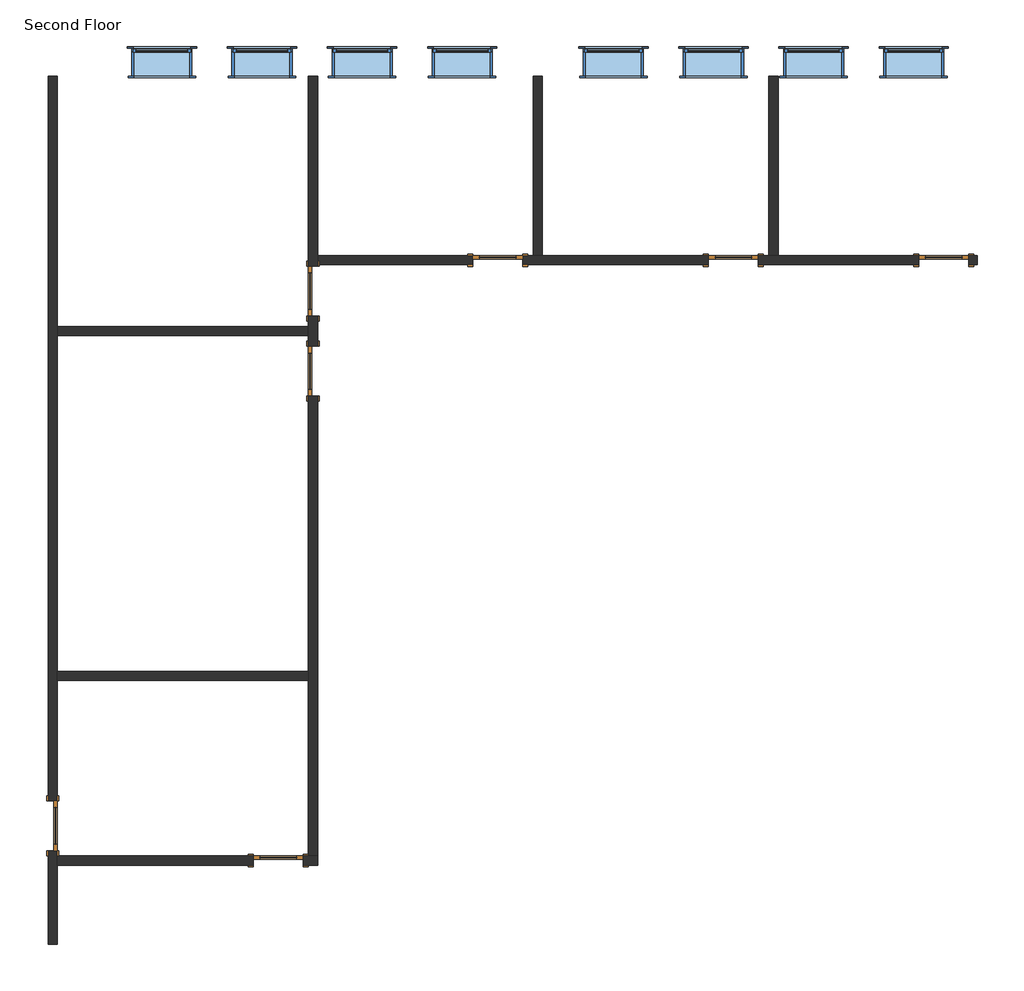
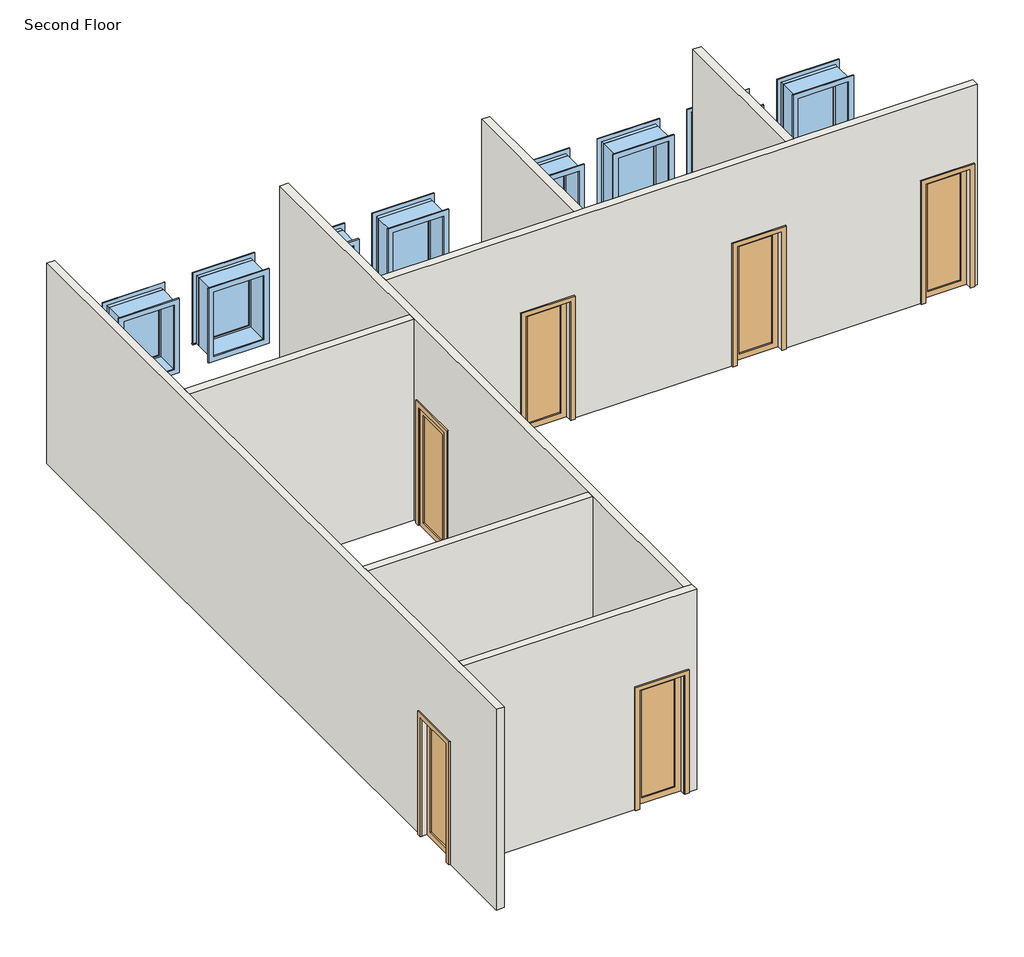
# One storey: 8 walls, 8 windows, 7 doors.
"""IFC4 building model written with IfcOpenShell, lengths in millimetres."""

from ifc_helpers import new_model, si_unit, frame, origin, place, context, project, spatial, polyline, outline, extrude, faceted_brep, transform, mapped, element, save
from components import m_single_glass_1_0762_x_2134mm_f7d00e6c, m_single_glass_1_0762_x_2134mm_cf50c2e0, m_awning_with_trim_0915_x_1220mm_2caa384f, m_awning_with_trim_0915_x_1220mm_1a66d356

model = new_model("IFC4")

# Units and contexts
model_context = context("Model", 3, world=origin())
ifc_project = project(units=[si_unit("LENGTHUNIT", "METRE", prefix="MILLI")], contexts=[model_context])

# Site, building, storey
site = spatial("IfcSite", under=ifc_project)
building = spatial("IfcBuilding", under=site)
storey = spatial("IfcBuildingStorey", under=building, Name="Second Floor", Elevation=7200.0)

# Doors
placement = place(None, origin())
m_single_glass_1_0762_x_2134mm_shape = m_single_glass_1_0762_x_2134mm_f7d00e6c(model_context)
element("IfcDoor", 1, ObjectType="M_Single-Glass 1 : 0762 x 2134mm", at=placement, inside=storey, context=model_context, shape_type="MappedRepresentation", body=[
    mapped(m_single_glass_1_0762_x_2134mm_shape, transform((6504.7849316, 118.507772, 7200.0), x_axis=(0.0, -1.0, 0.0), y_axis=(1.0, 0.0, 0.0), z_axis=(0.0, 0.0, 1.0))),
])
m_single_glass_1_0762_x_2134mm_2_shape = m_single_glass_1_0762_x_2134mm_cf50c2e0(model_context)
element("IfcDoor", 2, ObjectType="M_Single-Glass 1 : 0762 x 2134mm", at=placement, inside=storey, context=model_context, shape_type="MappedRepresentation", body=[
    mapped(m_single_glass_1_0762_x_2134mm_2_shape, transform((2542.7849316, -8025.342228, 7200.0), x_axis=(0.0, -1.0, 0.0), y_axis=(1.0, 0.0, 0.0), z_axis=(0.0, 0.0, 1.0))),
])
element("IfcDoor", 3, ObjectType="M_Single-Glass 1 : 0762 x 2134mm", at=placement, inside=storey, context=model_context, shape_type="MappedRepresentation", body=[
    mapped(m_single_glass_1_0762_x_2134mm_2_shape, transform((5975.5349316, -8554.592228, 7200.0), x_axis=(1.0, 0.0, 0.0), y_axis=(0.0, 1.0, 0.0), z_axis=(0.0, 0.0, 1.0))),
])
element("IfcDoor", 4, ObjectType="M_Single-Glass 1 : 0762 x 2134mm", at=placement, inside=storey, context=model_context, shape_type="MappedRepresentation", body=[
    mapped(m_single_glass_1_0762_x_2134mm_2_shape, transform((6504.7849316, -1101.492228, 7200.0), x_axis=(0.0, 1.0, 0.0), y_axis=(-1.0, 0.0, 0.0), z_axis=(0.0, 0.0, 1.0))),
])
element("IfcDoor", 5, ObjectType="M_Single-Glass 1 : 0762 x 2134mm", at=placement, inside=storey, context=model_context, shape_type="MappedRepresentation", body=[
    mapped(m_single_glass_1_0762_x_2134mm_2_shape, transform((9317.0349316, 589.407772, 7200.0), x_axis=(1.0, 0.0, 0.0), y_axis=(0.0, 1.0, 0.0), z_axis=(0.0, 0.0, 1.0))),
])
element("IfcDoor", 6, ObjectType="M_Single-Glass 1 : 0762 x 2134mm", at=placement, inside=storey, context=model_context, shape_type="MappedRepresentation", body=[
    mapped(m_single_glass_1_0762_x_2134mm_2_shape, transform((12905.7849316, 589.407772, 7200.0), x_axis=(1.0, 0.0, 0.0), y_axis=(0.0, 1.0, 0.0), z_axis=(0.0, 0.0, 1.0))),
])
element("IfcDoor", 7, ObjectType="M_Single-Glass 1 : 0762 x 2134mm", at=placement, inside=storey, context=model_context, shape_type="MappedRepresentation", body=[
    mapped(m_single_glass_1_0762_x_2134mm_2_shape, transform((16106.7849316, 589.407772, 7200.0), x_axis=(1.0, 0.0, 0.0), y_axis=(0.0, 1.0, 0.0), z_axis=(0.0, 0.0, 1.0))),
])

# Walls
element("IfcWall", 8, ObjectType="Interior - 138mm Partition (1-hr)", at=placement, inside=storey, context=model_context, shape_type="Brep", body=[
    faceted_brep([(2473.5349316, -8406.342228, 9334.0), (2473.5349316, -8406.342228, 7200.0), (2473.5349316, -9830.592228, 7200.0), (2473.5349316, -9830.592228, 10800.0), (2473.5349316, 3389.407772, 10800.0), (2473.5349316, 3389.407772, 7200.0), (2473.5349316, -7644.342228, 7200.0), (2473.5349316, -7644.342228, 9334.0), (2612.0349316, -9830.592228, 7200.0), (2612.0349316, -8623.842228, 7200.0), (2612.0349316, -8485.342228, 7200.0), (2612.0349316, -8406.342228, 7200.0), (2612.0349316, -8406.342228, 9334.0), (2612.0349316, -7644.342228, 9334.0), (2612.0349316, -7644.342228, 7200.0), (2612.0349316, -5811.592228, 7200.0), (2612.0349316, -5673.092228, 7200.0), (2612.0349316, -560.742228, 7200.0), (2612.0349316, -422.242228, 7200.0), (2612.0349316, 3389.407772, 7200.0), (2612.0349316, 3389.407772, 10800.0), (2612.0349316, -422.242228, 10800.0), (2612.0349316, -560.742228, 10800.0), (2612.0349316, -5673.092228, 10800.0), (2612.0349316, -5811.592228, 10800.0), (2612.0349316, -8485.342228, 10800.0), (2612.0349316, -8623.842228, 10800.0), (2612.0349316, -9830.592228, 10800.0)], [[[0, 1, 2, 3, 4, 5, 6, 7]], [[8, 9, 10, 11, 12, 13, 14, 15, 16, 17, 18, 19, 20, 21, 22, 23, 24, 25, 26, 27]], [[6, 5, 19, 18, 17, 16, 15, 14]], [[2, 1, 11, 10, 9, 8]], [[4, 3, 27, 26, 25, 24, 23, 22, 21, 20]], [[12, 11, 1, 0]], [[13, 12, 0, 7]], [[14, 13, 7, 6]], [[5, 4, 20, 19]], [[3, 2, 8, 27]]]),
])
element("IfcWall", 9, ObjectType="Interior - 138mm Partition (1-hr)", at=placement, inside=storey, context=model_context, shape_type="Brep", body=[
    faceted_brep([(6356.5349316, -8623.842228, 9334.0), (6356.5349316, -8623.842228, 7200.0), (6574.0349316, -8623.842228, 7200.0), (6574.0349316, -8623.842228, 10800.0), (2612.0349316, -8623.842228, 10800.0), (2612.0349316, -8623.842228, 7200.0), (5594.5349316, -8623.842228, 7200.0), (5594.5349316, -8623.842228, 9334.0), (6574.0349316, -8485.342228, 7200.0), (6435.5349316, -8485.342228, 7200.0), (6356.5349316, -8485.342228, 7200.0), (6356.5349316, -8485.342228, 9334.0), (5594.5349316, -8485.342228, 9334.0), (5594.5349316, -8485.342228, 7200.0), (2612.0349316, -8485.342228, 7200.0), (2612.0349316, -8485.342228, 10800.0), (6435.5349316, -8485.342228, 10800.0), (6574.0349316, -8485.342228, 10800.0)], [[[0, 1, 2, 3, 4, 5, 6, 7]], [[8, 9, 10, 11, 12, 13, 14, 15, 16, 17]], [[6, 5, 14, 13]], [[2, 1, 10, 9, 8]], [[4, 3, 17, 16, 15]], [[5, 4, 15, 14]], [[3, 2, 8, 17]], [[11, 10, 1, 0]], [[12, 11, 0, 7]], [[13, 12, 7, 6]]]),
])
element("IfcWall", 10, ObjectType="Interior - 138mm Partition (1-hr)", at=placement, inside=storey, context=model_context, shape_type="Brep", body=[
    faceted_brep([(6574.0349316, -720.492228, 7200.0), (6574.0349316, -262.492228, 7200.0), (6574.0349316, -262.492228, 9334.0), (6574.0349316, 499.507772, 9334.0), (6574.0349316, 499.507772, 7200.0), (6574.0349316, 520.157772, 7200.0), (6574.0349316, 658.657772, 7200.0), (6574.0349316, 3389.407772, 7200.0), (6574.0349316, 3389.407772, 10800.0), (6574.0349316, 658.657772, 10800.0), (6574.0349316, 520.157772, 10800.0), (6574.0349316, -8485.342228, 10800.0), (6574.0349316, -8485.342228, 7200.0), (6574.0349316, -1482.492228, 7200.0), (6574.0349316, -1482.492228, 9334.0), (6574.0349316, -720.492228, 9334.0), (6435.5349316, -262.492228, 9334.0), (6435.5349316, -262.492228, 7200.0), (6435.5349316, -422.242228, 7200.0), (6435.5349316, -560.742228, 7200.0), (6435.5349316, -720.492228, 7200.0), (6435.5349316, -720.492228, 9334.0), (6435.5349316, -1482.492228, 9334.0), (6435.5349316, -1482.492228, 7200.0), (6435.5349316, -5673.092228, 7200.0), (6435.5349316, -5811.592228, 7200.0), (6435.5349316, -8485.342228, 7200.0), (6435.5349316, -8485.342228, 10800.0), (6435.5349316, -5811.592228, 10800.0), (6435.5349316, -5673.092228, 10800.0), (6435.5349316, -560.742228, 10800.0), (6435.5349316, -422.242228, 10800.0), (6435.5349316, 3389.407772, 10800.0), (6435.5349316, 3389.407772, 7200.0), (6435.5349316, 499.507772, 7200.0), (6435.5349316, 499.507772, 9334.0)], [[[0, 1, 2, 3, 4, 5, 6, 7, 8, 9, 10, 11, 12, 13, 14, 15]], [[16, 17, 18, 19, 20, 21, 22, 23, 24, 25, 26, 27, 28, 29, 30, 31, 32, 33, 34, 35]], [[13, 12, 26, 25, 24, 23]], [[34, 33, 7, 6, 5, 4]], [[20, 19, 18, 17, 1, 0]], [[11, 10, 9, 8, 32, 31, 30, 29, 28, 27]], [[12, 11, 27, 26]], [[21, 20, 0, 15]], [[22, 21, 15, 14]], [[23, 22, 14, 13]], [[2, 1, 17, 16]], [[3, 2, 16, 35]], [[4, 3, 35, 34]], [[8, 7, 33, 32]]]),
])
element("IfcWall", 11, ObjectType="Interior - 138mm Partition (1-hr)", at=placement, inside=storey, context=model_context, shape_type="Brep", body=[
    faceted_brep([(16620.7849316, 658.657772, 7200.0), (16487.7849316, 658.657772, 7200.0), (16487.7849316, 658.657772, 9334.0), (15725.7849316, 658.657772, 9334.0), (15725.7849316, 658.657772, 7200.0), (13585.0349316, 658.657772, 7200.0), (13446.5349316, 658.657772, 7200.0), (13286.7849316, 658.657772, 7200.0), (13286.7849316, 658.657772, 9334.0), (12524.7849316, 658.657772, 9334.0), (12524.7849316, 658.657772, 7200.0), (9996.2849316, 658.657772, 7200.0), (9857.7849316, 658.657772, 7200.0), (9698.0349316, 658.657772, 7200.0), (9698.0349316, 658.657772, 9334.0), (8936.0349316, 658.657772, 9334.0), (8936.0349316, 658.657772, 7200.0), (6574.0349316, 658.657772, 7200.0), (6574.0349316, 658.657772, 10800.0), (9857.7849316, 658.657772, 10800.0), (9996.2849316, 658.657772, 10800.0), (13446.5349316, 658.657772, 10800.0), (13585.0349316, 658.657772, 10800.0), (16620.7849316, 658.657772, 10800.0), (16487.7849316, 520.157772, 9334.0), (16487.7849316, 520.157772, 7200.0), (16620.7849316, 520.157772, 7200.0), (16620.7849316, 520.157772, 10800.0), (6574.0349316, 520.157772, 10800.0), (6574.0349316, 520.157772, 7200.0), (8936.0349316, 520.157772, 7200.0), (8936.0349316, 520.157772, 9334.0), (9698.0349316, 520.157772, 9334.0), (9698.0349316, 520.157772, 7200.0), (12524.7849316, 520.157772, 7200.0), (12524.7849316, 520.157772, 9334.0), (13286.7849316, 520.157772, 9334.0), (13286.7849316, 520.157772, 7200.0), (15725.7849316, 520.157772, 7200.0), (15725.7849316, 520.157772, 9334.0)], [[[0, 1, 2, 3, 4, 5, 6, 7, 8, 9, 10, 11, 12, 13, 14, 15, 16, 17, 18, 19, 20, 21, 22, 23]], [[24, 25, 26, 27, 28, 29, 30, 31, 32, 33, 34, 35, 36, 37, 38, 39]], [[30, 29, 17, 16]], [[34, 33, 13, 12, 11, 10]], [[38, 37, 7, 6, 5, 4]], [[26, 25, 1, 0]], [[23, 22, 21, 20, 19, 18, 28, 27]], [[18, 17, 29, 28]], [[14, 13, 33, 32]], [[15, 14, 32, 31]], [[16, 15, 31, 30]], [[8, 7, 37, 36]], [[9, 8, 36, 35]], [[10, 9, 35, 34]], [[2, 1, 25, 24]], [[3, 2, 24, 39]], [[4, 3, 39, 38]], [[0, 23, 27, 26]]]),
])
element("IfcWall", 12, ObjectType="Interior - 138mm Partition (1-hr)", at=placement, inside=storey, context=model_context, shape_type="SweptSolid", body=[
    extrude(outline(polyline([(6435.5349316, -5811.592228), (2612.0349316, -5811.592228), (2612.0349316, -5673.092228), (6435.5349316, -5673.092228), (6435.5349316, -5811.592228)])), frame((0.0, 0.0, 7200.0), z_axis=(0.0, 0.0, 1.0), x_axis=(1.0, 0.0, 0.0)), (0.0, 0.0, 1.0), 3600.0),
])
element("IfcWall", 13, ObjectType="Interior - 138mm Partition (1-hr)", at=placement, inside=storey, context=model_context, shape_type="SweptSolid", body=[
    extrude(outline(polyline([(6435.5349316, -560.742228), (2612.0349316, -560.742228), (2612.0349316, -422.242228), (6435.5349316, -422.242228), (6435.5349316, -560.742228)])), frame((0.0, 0.0, 7200.0), z_axis=(0.0, 0.0, 1.0), x_axis=(1.0, 0.0, 0.0)), (0.0, 0.0, 1.0), 3600.0),
])
element("IfcWall", 14, ObjectType="Interior - 138mm Partition (1-hr)", at=placement, inside=storey, context=model_context, shape_type="SweptSolid", body=[
    extrude(outline(polyline([(9996.2849316, 3389.407772), (9996.2849316, 658.657772), (9857.7849316, 658.657772), (9857.7849316, 3389.407772), (9996.2849316, 3389.407772)])), frame((0.0, 0.0, 7200.0), z_axis=(0.0, 0.0, 1.0), x_axis=(1.0, 0.0, 0.0)), (0.0, 0.0, 1.0), 3600.0),
])
element("IfcWall", 15, ObjectType="Interior - 138mm Partition (1-hr)", at=placement, inside=storey, context=model_context, shape_type="SweptSolid", body=[
    extrude(outline(polyline([(13585.0349316, 3389.407772), (13585.0349316, 658.657772), (13446.5349316, 658.657772), (13446.5349316, 3389.407772), (13585.0349316, 3389.407772)])), frame((0.0, 0.0, 7200.0), z_axis=(0.0, 0.0, 1.0), x_axis=(1.0, 0.0, 0.0)), (0.0, 0.0, 1.0), 3600.0),
])

# Windows
m_awning_with_trim_0915_x_1220mm_shape = m_awning_with_trim_0915_x_1220mm_2caa384f(model_context)
element("IfcWindow", 16, ObjectType="M_Awning with Trim : 0915 x 1220mm", at=placement, inside=storey, context=model_context, shape_type="MappedRepresentation", body=[
    mapped(m_awning_with_trim_0915_x_1220mm_shape, transform((4204.2849316, 3603.907772, 7200.0), x_axis=(-1.0, 0.0, 0.0), y_axis=(0.0, -1.0, 0.0), z_axis=(0.0, 0.0, 1.0))),
])
element("IfcWindow", 17, ObjectType="M_Awning with Trim : 0915 x 1220mm", at=placement, inside=storey, context=model_context, shape_type="MappedRepresentation", body=[
    mapped(m_awning_with_trim_0915_x_1220mm_shape, transform((5728.2849316, 3603.907772, 7200.0), x_axis=(-1.0, 0.0, 0.0), y_axis=(0.0, -1.0, 0.0), z_axis=(0.0, 0.0, 1.0))),
])
element("IfcWindow", 18, ObjectType="M_Awning with Trim : 0915 x 1220mm", at=placement, inside=storey, context=model_context, shape_type="MappedRepresentation", body=[
    mapped(m_awning_with_trim_0915_x_1220mm_shape, transform((7252.2849316, 3603.907772, 7200.0), x_axis=(-1.0, 0.0, 0.0), y_axis=(0.0, -1.0, 0.0), z_axis=(0.0, 0.0, 1.0))),
])
element("IfcWindow", 19, ObjectType="M_Awning with Trim : 0915 x 1220mm", at=placement, inside=storey, context=model_context, shape_type="MappedRepresentation", body=[
    mapped(m_awning_with_trim_0915_x_1220mm_shape, transform((8776.2849316, 3603.907772, 7200.0), x_axis=(-1.0, 0.0, 0.0), y_axis=(0.0, -1.0, 0.0), z_axis=(0.0, 0.0, 1.0))),
])
m_awning_with_trim_0915_x_1220mm_2_shape = m_awning_with_trim_0915_x_1220mm_1a66d356(model_context)
element("IfcWindow", 20, ObjectType="M_Awning with Trim : 0915 x 1220mm", at=placement, inside=storey, context=model_context, shape_type="MappedRepresentation", body=[
    mapped(m_awning_with_trim_0915_x_1220mm_2_shape, transform((15649.7849316, 3603.907772, 7200.0), x_axis=(1.0, 0.0, 0.0), y_axis=(0.0, 1.0, 0.0), z_axis=(0.0, 0.0, 1.0))),
])
element("IfcWindow", 21, ObjectType="M_Awning with Trim : 0915 x 1220mm", at=placement, inside=storey, context=model_context, shape_type="MappedRepresentation", body=[
    mapped(m_awning_with_trim_0915_x_1220mm_2_shape, transform((14125.7849316, 3603.907772, 7200.0), x_axis=(1.0, 0.0, 0.0), y_axis=(0.0, 1.0, 0.0), z_axis=(0.0, 0.0, 1.0))),
])
element("IfcWindow", 22, ObjectType="M_Awning with Trim : 0915 x 1220mm", at=placement, inside=storey, context=model_context, shape_type="MappedRepresentation", body=[
    mapped(m_awning_with_trim_0915_x_1220mm_2_shape, transform((12601.7849316, 3603.907772, 7200.0), x_axis=(1.0, 0.0, 0.0), y_axis=(0.0, 1.0, 0.0), z_axis=(0.0, 0.0, 1.0))),
])
element("IfcWindow", 23, ObjectType="M_Awning with Trim : 0915 x 1220mm", at=placement, inside=storey, context=model_context, shape_type="MappedRepresentation", body=[
    mapped(m_awning_with_trim_0915_x_1220mm_2_shape, transform((11077.7849316, 3603.907772, 7200.0), x_axis=(1.0, 0.0, 0.0), y_axis=(0.0, 1.0, 0.0), z_axis=(0.0, 0.0, 1.0))),
])

save(model, "model.ifc")
